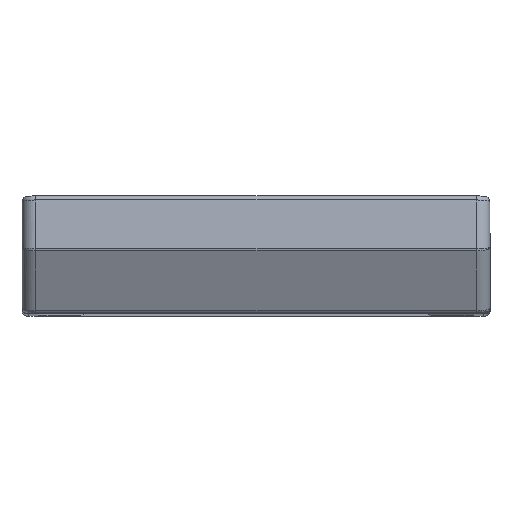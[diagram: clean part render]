
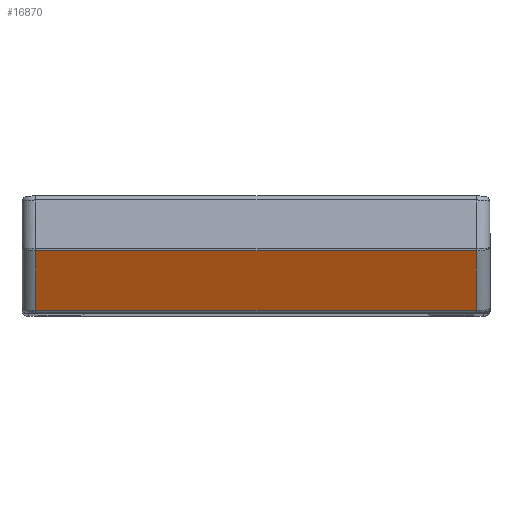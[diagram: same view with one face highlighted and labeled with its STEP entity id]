
A CAD part, left-side view. The second image highlights one B-rep face of the part: STEP entity #16870.
In plain terms, the highlighted planar face has unit normal (-0.913, 0, -0.407).
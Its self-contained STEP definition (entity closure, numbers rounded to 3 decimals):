
#967=FACE_OUTER_BOUND('',#1809,.T.);
#1809=EDGE_LOOP('',(#14395,#14396,#14397,#14398));
#4139=LINE('',#26536,#6468);
#4140=LINE('',#26539,#6469);
#4141=LINE('',#26543,#6470);
#4142=LINE('',#26544,#6471);
#6468=VECTOR('',#21658,10.);
#6469=VECTOR('',#21661,10.);
#6470=VECTOR('',#21666,10.);
#6471=VECTOR('',#21667,10.);
#8076=VERTEX_POINT('',#26497);
#8077=VERTEX_POINT('',#26520);
#8082=VERTEX_POINT('',#26538);
#8083=VERTEX_POINT('',#26542);
#10434=EDGE_CURVE('',#8077,#8076,#4139,.T.);
#10435=EDGE_CURVE('',#8076,#8082,#4140,.T.);
#10437=EDGE_CURVE('',#8083,#8077,#4141,.T.);
#10438=EDGE_CURVE('',#8082,#8083,#4142,.T.);
#14395=ORIENTED_EDGE('',*,*,#10434,.F.);
#14396=ORIENTED_EDGE('',*,*,#10437,.F.);
#14397=ORIENTED_EDGE('',*,*,#10438,.F.);
#14398=ORIENTED_EDGE('',*,*,#10435,.F.);
#16080=PLANE('',#17749);
#16870=ADVANCED_FACE('',(#967),#16080,.T.);
#17749=AXIS2_PLACEMENT_3D('',#26541,#21664,#21665);
#21658=DIRECTION('',(0.407,0.,-0.914));
#21661=DIRECTION('',(0.,1.,0.));
#21664=DIRECTION('center_axis',(-0.914,0.,-0.407));
#21665=DIRECTION('ref_axis',(-0.407,0.,0.914));
#21666=DIRECTION('',(0.,-1.,0.));
#21667=DIRECTION('',(-0.407,0.,0.914));
#26497=CARTESIAN_POINT('',(-25.301,3.,4.694));
#26520=CARTESIAN_POINT('',(-31.145,3.,17.821));
#26536=CARTESIAN_POINT('',(-22.498,3.,-1.601));
#26538=CARTESIAN_POINT('',(-25.301,100.,4.694));
#26539=CARTESIAN_POINT('',(-25.301,0.,4.694));
#26541=CARTESIAN_POINT('Origin',(-25.038,0.,4.104));
#26542=CARTESIAN_POINT('',(-31.145,100.,17.821));
#26543=CARTESIAN_POINT('',(-31.145,0.,17.821));
#26544=CARTESIAN_POINT('',(-22.498,100.,-1.601));
